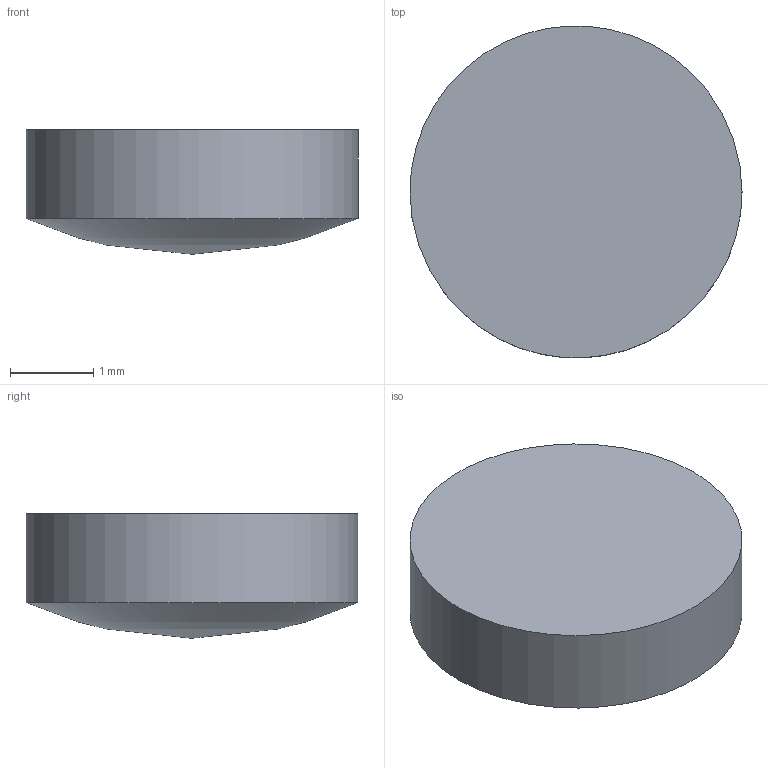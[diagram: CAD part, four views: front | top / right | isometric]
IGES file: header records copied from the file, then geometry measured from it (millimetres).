
Global section: file name: SLM-04-08P; native system: Autodesk Inventor 2015; preprocessor: unknown; author: r.sato; date: 20161219.190538; units: millimetre
Bounding box: 4 x 4 x 1.5 mm (x, y, z)
Volume: 16.2 mm3; surface area: 39.2 mm2
Topology: 1 solids, 1 shells, 3 faces, 5 edges, 4 vertices
Faces by surface type: bspline 3
